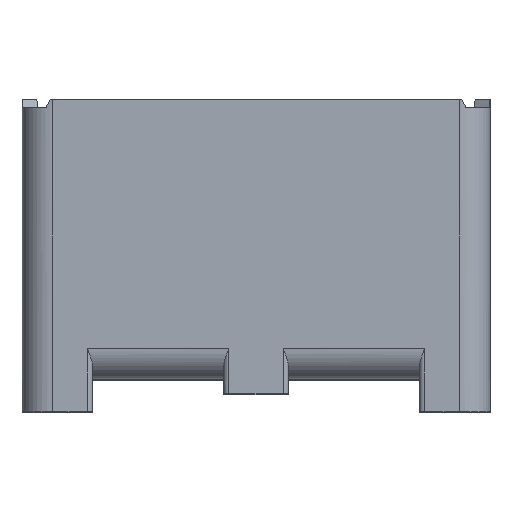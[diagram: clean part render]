
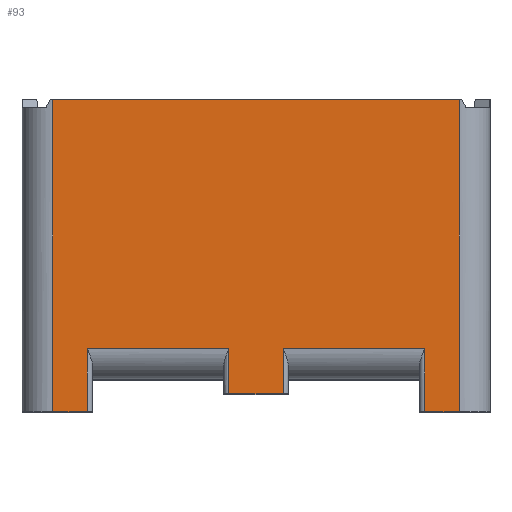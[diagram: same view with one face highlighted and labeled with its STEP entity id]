
A CAD part, top view. The second image highlights one B-rep face of the part: STEP entity #93.
In plain terms, the highlighted planar face has unit normal (0, 0, 1).
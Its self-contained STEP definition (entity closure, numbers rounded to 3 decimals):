
#93 = ADVANCED_FACE ( 'NONE', ( #2434 ), #3574, .F. ) ;
#96 = DIRECTION ( 'NONE',  ( 0., -1., 0. ) ) ;
#153 = VERTEX_POINT ( 'NONE', #1034 ) ;
#160 = VERTEX_POINT ( 'NONE', #1050 ) ;
#170 = DIRECTION ( 'NONE',  ( 1., 0., 0. ) ) ;
#204 = ORIENTED_EDGE ( 'NONE', *, *, #3743, .F. ) ;
#281 = ORIENTED_EDGE ( 'NONE', *, *, #2220, .T. ) ;
#440 = LINE ( 'NONE', #1978, #1228 ) ;
#480 = CARTESIAN_POINT ( 'NONE',  ( 1085.85, 0., 620.712 ) ) ;
#485 = VECTOR ( 'NONE', #2687, 1000. ) ;
#486 = DIRECTION ( 'NONE',  ( -1., 0., 0. ) ) ;
#507 = CARTESIAN_POINT ( 'NONE',  ( 162.3, 156.2, 620.712 ) ) ;
#548 = CARTESIAN_POINT ( 'NONE',  ( 513.725, 774.7, 620.712 ) ) ;
#555 = VECTOR ( 'NONE', #2752, 1000. ) ;
#712 = CARTESIAN_POINT ( 'NONE',  ( 162.3, 0., 620.712 ) ) ;
#748 = ORIENTED_EDGE ( 'NONE', *, *, #2968, .T. ) ;
#896 = ORIENTED_EDGE ( 'NONE', *, *, #2062, .T. ) ;
#929 = CARTESIAN_POINT ( 'NONE',  ( 0., 0., 620.712 ) ) ;
#931 = ORIENTED_EDGE ( 'NONE', *, *, #3083, .T. ) ;
#942 = AXIS2_PLACEMENT_3D ( 'NONE', #1748, #3897, #2049 ) ;
#952 = CARTESIAN_POINT ( 'NONE',  ( 76.2, 774.7, 620.712 ) ) ;
#960 = VERTEX_POINT ( 'NONE', #3941 ) ;
#1007 = LINE ( 'NONE', #1917, #3898 ) ;
#1034 = CARTESIAN_POINT ( 'NONE',  ( 513.725, 156.2, 620.712 ) ) ;
#1050 = CARTESIAN_POINT ( 'NONE',  ( 999.75, 156.2, 620.712 ) ) ;
#1056 = LINE ( 'NONE', #3511, #1677 ) ;
#1104 = CARTESIAN_POINT ( 'NONE',  ( 0., 156.2, 620.712 ) ) ;
#1112 = VECTOR ( 'NONE', #2235, 1000. ) ;
#1195 = CARTESIAN_POINT ( 'NONE',  ( 76.2, 774.7, 620.712 ) ) ;
#1228 = VECTOR ( 'NONE', #170, 1000. ) ;
#1321 = CARTESIAN_POINT ( 'NONE',  ( 0., 774.7, 620.712 ) ) ;
#1358 = LINE ( 'NONE', #929, #555 ) ;
#1441 = LINE ( 'NONE', #1960, #2973 ) ;
#1506 = EDGE_LOOP ( 'NONE', ( #896, #281, #2899, #3814, #2265, #748, #931, #3376, #3472, #2043, #2407, #204 ) ) ;
#1516 = CARTESIAN_POINT ( 'NONE',  ( 1085.85, 774.7, 620.712 ) ) ;
#1677 = VECTOR ( 'NONE', #2268, 1000. ) ;
#1679 = VECTOR ( 'NONE', #3098, 1000. ) ;
#1748 = CARTESIAN_POINT ( 'NONE',  ( 0., 774.7, 620.712 ) ) ;
#1753 = VERTEX_POINT ( 'NONE', #712 ) ;
#1770 = CARTESIAN_POINT ( 'NONE',  ( 648.325, 774.7, 620.712 ) ) ;
#1917 = CARTESIAN_POINT ( 'NONE',  ( 999.75, 774.7, 620.712 ) ) ;
#1960 = CARTESIAN_POINT ( 'NONE',  ( 1162.05, 156.2, 620.712 ) ) ;
#1978 = CARTESIAN_POINT ( 'NONE',  ( 1162.05, 0., 620.712 ) ) ;
#2010 = LINE ( 'NONE', #1321, #1112 ) ;
#2037 = VECTOR ( 'NONE', #3933, 1000. ) ;
#2043 = ORIENTED_EDGE ( 'NONE', *, *, #3498, .F. ) ;
#2049 = DIRECTION ( 'NONE',  ( 1., 0., 0. ) ) ;
#2062 = EDGE_CURVE ( 'NONE', #2124, #2736, #1056, .T. ) ;
#2097 = LINE ( 'NONE', #1770, #485 ) ;
#2122 = VERTEX_POINT ( 'NONE', #480 ) ;
#2124 = VERTEX_POINT ( 'NONE', #3543 ) ;
#2161 = VERTEX_POINT ( 'NONE', #507 ) ;
#2163 = CARTESIAN_POINT ( 'NONE',  ( 1085.85, 774.7, 620.712 ) ) ;
#2196 = CARTESIAN_POINT ( 'NONE',  ( 162.3, 774.7, 620.712 ) ) ;
#2220 = EDGE_CURVE ( 'NONE', #2736, #3853, #2097, .T. ) ;
#2235 = DIRECTION ( 'NONE',  ( -1., 0., 0. ) ) ;
#2265 = ORIENTED_EDGE ( 'NONE', *, *, #2817, .T. ) ;
#2268 = DIRECTION ( 'NONE',  ( 1., 0., 0. ) ) ;
#2407 = ORIENTED_EDGE ( 'NONE', *, *, #3627, .F. ) ;
#2418 = LINE ( 'NONE', #1195, #3777 ) ;
#2425 = EDGE_CURVE ( 'NONE', #3853, #160, #1441, .T. ) ;
#2434 = FACE_OUTER_BOUND ( 'NONE', #1506, .T. ) ;
#2591 = CARTESIAN_POINT ( 'NONE',  ( 999.75, 0., 620.712 ) ) ;
#2687 = DIRECTION ( 'NONE',  ( 0., 1., 0. ) ) ;
#2725 = EDGE_CURVE ( 'NONE', #160, #2851, #1007, .T. ) ;
#2736 = VERTEX_POINT ( 'NONE', #2860 ) ;
#2752 = DIRECTION ( 'NONE',  ( -1., 0., 0. ) ) ;
#2817 = EDGE_CURVE ( 'NONE', #2851, #2122, #440, .T. ) ;
#2851 = VERTEX_POINT ( 'NONE', #2591 ) ;
#2860 = CARTESIAN_POINT ( 'NONE',  ( 648.325, 44., 620.712 ) ) ;
#2899 = ORIENTED_EDGE ( 'NONE', *, *, #2425, .T. ) ;
#2951 = LINE ( 'NONE', #1104, #3652 ) ;
#2968 = EDGE_CURVE ( 'NONE', #2122, #3279, #3943, .T. ) ;
#2973 = VECTOR ( 'NONE', #3507, 1000. ) ;
#3038 = DIRECTION ( 'NONE',  ( 0., 1., 0. ) ) ;
#3083 = EDGE_CURVE ( 'NONE', #3279, #3403, #2010, .T. ) ;
#3098 = DIRECTION ( 'NONE',  ( 0., 1., 0. ) ) ;
#3149 = DIRECTION ( 'NONE',  ( 0., -1., 0. ) ) ;
#3279 = VERTEX_POINT ( 'NONE', #1516 ) ;
#3281 = EDGE_CURVE ( 'NONE', #960, #3403, #2418, .T. ) ;
#3336 = VECTOR ( 'NONE', #96, 1000. ) ;
#3351 = EDGE_CURVE ( 'NONE', #1753, #960, #1358, .T. ) ;
#3376 = ORIENTED_EDGE ( 'NONE', *, *, #3281, .F. ) ;
#3403 = VERTEX_POINT ( 'NONE', #952 ) ;
#3410 = LINE ( 'NONE', #2196, #3336 ) ;
#3472 = ORIENTED_EDGE ( 'NONE', *, *, #3351, .F. ) ;
#3498 = EDGE_CURVE ( 'NONE', #2161, #1753, #3410, .T. ) ;
#3507 = DIRECTION ( 'NONE',  ( 1., 0., 0. ) ) ;
#3511 = CARTESIAN_POINT ( 'NONE',  ( 501.025, 44., 620.712 ) ) ;
#3543 = CARTESIAN_POINT ( 'NONE',  ( 513.725, 44., 620.712 ) ) ;
#3569 = LINE ( 'NONE', #548, #2037 ) ;
#3574 = PLANE ( 'NONE',  #942 ) ;
#3627 = EDGE_CURVE ( 'NONE', #153, #2161, #2951, .T. ) ;
#3652 = VECTOR ( 'NONE', #486, 1000. ) ;
#3743 = EDGE_CURVE ( 'NONE', #2124, #153, #3569, .T. ) ;
#3777 = VECTOR ( 'NONE', #3038, 1000. ) ;
#3798 = CARTESIAN_POINT ( 'NONE',  ( 648.325, 156.2, 620.712 ) ) ;
#3814 = ORIENTED_EDGE ( 'NONE', *, *, #2725, .T. ) ;
#3853 = VERTEX_POINT ( 'NONE', #3798 ) ;
#3897 = DIRECTION ( 'NONE',  ( 0., 0., -1. ) ) ;
#3898 = VECTOR ( 'NONE', #3149, 1000. ) ;
#3933 = DIRECTION ( 'NONE',  ( 0., 1., 0. ) ) ;
#3941 = CARTESIAN_POINT ( 'NONE',  ( 76.2, 0., 620.712 ) ) ;
#3943 = LINE ( 'NONE', #2163, #1679 ) ;
